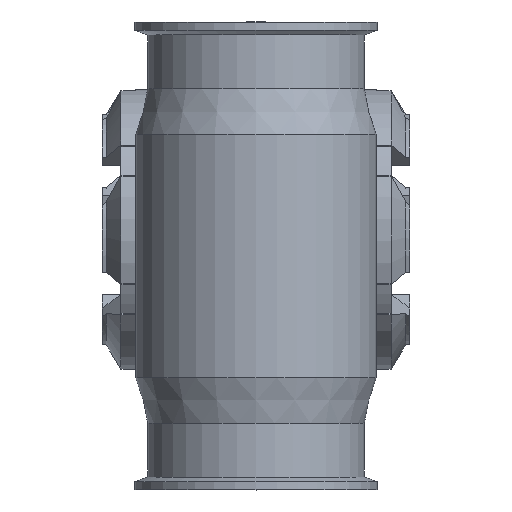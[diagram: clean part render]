
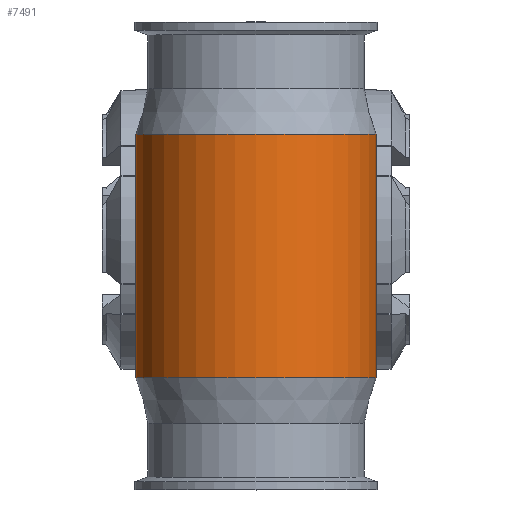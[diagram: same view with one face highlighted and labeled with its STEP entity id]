
A CAD part, front view. The second image highlights one B-rep face of the part: STEP entity #7491.
In plain terms, the highlighted cylindrical face has radius 45 mm (diameter 90 mm), a full revolution.
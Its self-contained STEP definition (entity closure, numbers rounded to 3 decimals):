
#758=CIRCLE('',#26744,45.);
#759=CIRCLE('',#26745,45.);
#3051=LINE('',#45104,#5836);
#3052=LINE('',#45105,#5837);
#5836=VECTOR('',#31553,1.);
#5837=VECTOR('',#31554,1.);
#5945=CYLINDRICAL_SURFACE('',#26746,45.);
#6140=FACE_BOUND('',#10937,.T.);
#6141=FACE_BOUND('',#10938,.T.);
#6142=FACE_BOUND('',#10939,.T.);
#7491=ADVANCED_FACE('',(#6140,#6141,#6142),#5945,.T.);
#10937=EDGE_LOOP('',(#18108));
#10938=EDGE_LOOP('',(#18109));
#10939=EDGE_LOOP('',(#18110,#18111,#18112,#18113));
#18108=ORIENTED_EDGE('',*,*,#24121,.T.);
#18109=ORIENTED_EDGE('',*,*,#24122,.T.);
#18110=ORIENTED_EDGE('',*,*,#24120,.F.);
#18111=ORIENTED_EDGE('',*,*,#24118,.F.);
#18112=ORIENTED_EDGE('',*,*,#24119,.F.);
#18113=ORIENTED_EDGE('',*,*,#24116,.F.);
#20530=VERTEX_POINT('',#45077);
#20531=VERTEX_POINT('',#45078);
#20532=VERTEX_POINT('',#45091);
#20533=VERTEX_POINT('',#45092);
#20534=VERTEX_POINT('',#45108);
#20535=VERTEX_POINT('',#45110);
#24116=EDGE_CURVE('',#20531,#20530,#25743,.T.);
#24118=EDGE_CURVE('',#20533,#20532,#25744,.T.);
#24119=EDGE_CURVE('',#20530,#20533,#3051,.T.);
#24120=EDGE_CURVE('',#20532,#20531,#3052,.T.);
#24121=EDGE_CURVE('',#20534,#20534,#758,.T.);
#24122=EDGE_CURVE('',#20535,#20535,#759,.T.);
#25743=B_SPLINE_CURVE_WITH_KNOTS('',3,(#45079,#45080,#45081,#45082,#45083,
#45084,#45085,#45086,#45087,#45088),.UNSPECIFIED.,.F.,.F.,(4,2,2,2,4),(0.,
0.25,0.5,0.75,1.),.UNSPECIFIED.);
#25744=B_SPLINE_CURVE_WITH_KNOTS('',3,(#45093,#45094,#45095,#45096,#45097,
#45098,#45099,#45100,#45101,#45102),.UNSPECIFIED.,.F.,.F.,(4,2,2,2,4),(0.,
0.25,0.5,0.75,1.),.UNSPECIFIED.);
#26744=AXIS2_PLACEMENT_3D('',#45107,#31557,#31558);
#26745=AXIS2_PLACEMENT_3D('',#45109,#31559,#31560);
#26746=AXIS2_PLACEMENT_3D('',#45111,#31561,#31562);
#31553=DIRECTION('',(0.,0.,-1.));
#31554=DIRECTION('',(0.,0.,1.));
#31557=DIRECTION('',(0.,0.,1.));
#31558=DIRECTION('',(0.,-1.,0.));
#31559=DIRECTION('',(0.,0.,-1.));
#31560=DIRECTION('',(0.,1.,0.));
#31561=DIRECTION('',(0.,0.,-1.));
#31562=DIRECTION('',(0.,1.,0.));
#45077=CARTESIAN_POINT('',(11.522,9.,8.803));
#45078=CARTESIAN_POINT('',(-11.522,9.,8.803));
#45079=CARTESIAN_POINT('',(-11.522,9.,8.803));
#45080=CARTESIAN_POINT('',(-10.17,9.358,10.573));
#45081=CARTESIAN_POINT('',(-8.432,9.748,12.001));
#45082=CARTESIAN_POINT('',(-4.479,10.321,13.966));
#45083=CARTESIAN_POINT('',(-2.247,10.499,14.497));
#45084=CARTESIAN_POINT('',(2.21,10.501,14.503));
#45085=CARTESIAN_POINT('',(4.45,10.325,13.978));
#45086=CARTESIAN_POINT('',(8.435,9.748,12.002));
#45087=CARTESIAN_POINT('',(10.17,9.358,10.573));
#45088=CARTESIAN_POINT('',(11.522,9.,8.803));
#45091=CARTESIAN_POINT('',(-11.522,9.,-8.803));
#45092=CARTESIAN_POINT('',(11.522,9.,-8.803));
#45093=CARTESIAN_POINT('',(11.522,9.,-8.803));
#45094=CARTESIAN_POINT('',(10.17,9.358,-10.573));
#45095=CARTESIAN_POINT('',(8.432,9.748,-12.001));
#45096=CARTESIAN_POINT('',(4.479,10.321,-13.966));
#45097=CARTESIAN_POINT('',(2.247,10.499,-14.497));
#45098=CARTESIAN_POINT('',(-2.21,10.501,-14.503));
#45099=CARTESIAN_POINT('',(-4.45,10.325,-13.978));
#45100=CARTESIAN_POINT('',(-8.435,9.748,-12.002));
#45101=CARTESIAN_POINT('',(-10.17,9.358,-10.573));
#45102=CARTESIAN_POINT('',(-11.522,9.,-8.803));
#45104=CARTESIAN_POINT('',(11.522,9.,0.));
#45105=CARTESIAN_POINT('',(-11.522,9.,-0.001));
#45107=CARTESIAN_POINT('',(0.,-34.5,-55.258));
#45108=CARTESIAN_POINT('',(0.,-79.5,-55.258));
#45109=CARTESIAN_POINT('',(0.,-34.5,35.742));
#45110=CARTESIAN_POINT('',(0.,10.5,35.742));
#45111=CARTESIAN_POINT('',(0.,-34.5,-916.158));
